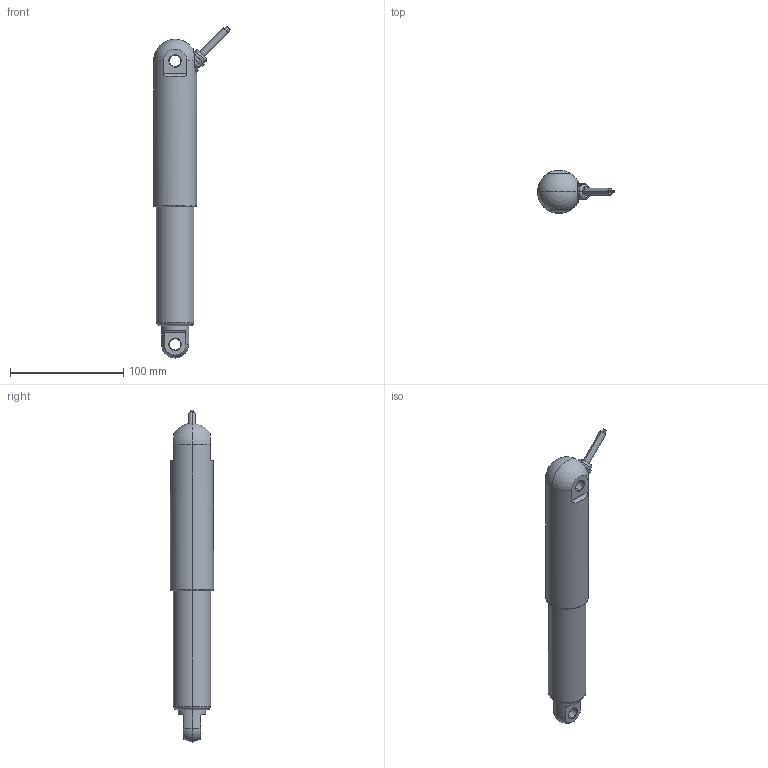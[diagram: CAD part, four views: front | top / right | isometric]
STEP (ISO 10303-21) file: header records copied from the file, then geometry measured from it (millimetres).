
FILE_DESCRIPTION((''),'2;1');
FILE_NAME('ST38-50MM-200','2016-12-15T',('Aklek'),(''),'PRO/ENGINEER BY PARAMETRIC TECHNOLOGY CORPORATION, 2010100','PRO/ENGINEER BY PARAMETRIC TECHNOLOGY CORPORATION, 2010100','');
FILE_SCHEMA(('CONFIG_CONTROL_DESIGN'));
Length unit declared in the file: millimetre
Products named in the file (1): ST38-50MM-200
Bounding box: 67.76 x 38 x 292.76 mm (x, y, z)
Volume: 253617.1 mm3; surface area: 34321.2 mm2
Topology: 1 solids, 2 shells, 92 faces, 223 edges, 141 vertices
Faces by surface type: cylinder 41, plane 33, cone 8, torus 6, sphere 4
Entity records: 2825 total; most frequent: CARTESIAN_POINT 569, DIRECTION 498, ORIENTED_EDGE 438, EDGE_CURVE 219, AXIS2_PLACEMENT_3D 201, VERTEX_POINT 141, CIRCLE 109, EDGE_LOOP 106
